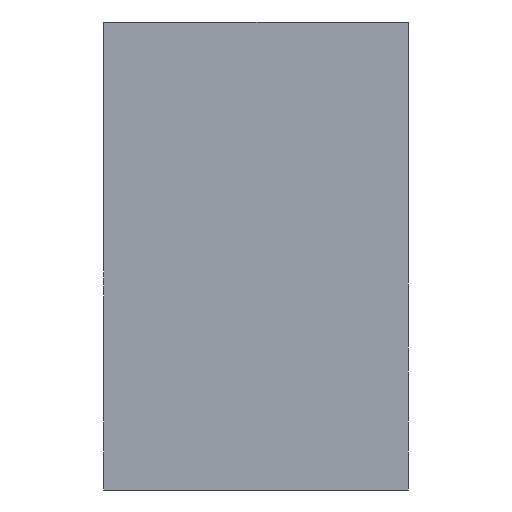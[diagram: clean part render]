
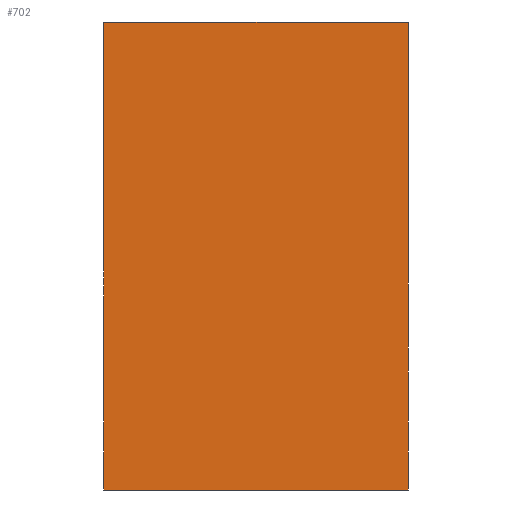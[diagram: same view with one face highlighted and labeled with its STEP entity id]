
A CAD part, left-side view. The second image highlights one B-rep face of the part: STEP entity #702.
In plain terms, the highlighted planar face has unit normal (-1, 0, 0).
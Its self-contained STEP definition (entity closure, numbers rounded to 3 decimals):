
#71 = LINE ( 'NONE', #2379, #654 ) ;
#193 = PLANE ( 'NONE',  #1316 ) ;
#195 = FACE_OUTER_BOUND ( 'NONE', #1236, .T. ) ;
#217 = DIRECTION ( 'NONE',  ( 0., -1., 0. ) ) ;
#234 = CARTESIAN_POINT ( 'NONE',  ( 0., 19.5, 0. ) ) ;
#238 = DIRECTION ( 'NONE',  ( 1., 0., 0. ) ) ;
#243 = DIRECTION ( 'NONE',  ( 0., 0., -1. ) ) ;
#282 = CARTESIAN_POINT ( 'NONE',  ( 0., 19.5, 0. ) ) ;
#330 = CARTESIAN_POINT ( 'NONE',  ( 0., 0., 0. ) ) ;
#335 = VECTOR ( 'NONE', #453, 1000. ) ;
#453 = DIRECTION ( 'NONE',  ( 0., -1., 0. ) ) ;
#624 = ORIENTED_EDGE ( 'NONE', *, *, #1777, .T. ) ;
#654 = VECTOR ( 'NONE', #872, 1000. ) ;
#702 = ADVANCED_FACE ( 'NONE', ( #195 ), #193, .F. ) ;
#723 = LINE ( 'NONE', #1375, #2013 ) ;
#821 = ORIENTED_EDGE ( 'NONE', *, *, #2236, .T. ) ;
#856 = VERTEX_POINT ( 'NONE', #330 ) ;
#872 = DIRECTION ( 'NONE',  ( 0., 0., 1. ) ) ;
#874 = LINE ( 'NONE', #1951, #335 ) ;
#1049 = CARTESIAN_POINT ( 'NONE',  ( 0., 0., -30. ) ) ;
#1121 = VERTEX_POINT ( 'NONE', #2045 ) ;
#1236 = EDGE_LOOP ( 'NONE', ( #821, #1727, #1807, #624 ) ) ;
#1316 = AXIS2_PLACEMENT_3D ( 'NONE', #234, #238, #243 ) ;
#1375 = CARTESIAN_POINT ( 'NONE',  ( 0., 19.5, -30. ) ) ;
#1544 = CARTESIAN_POINT ( 'NONE',  ( 0., 19.5, 0. ) ) ;
#1608 = DIRECTION ( 'NONE',  ( 0., 0., 1. ) ) ;
#1612 = VECTOR ( 'NONE', #1608, 1000. ) ;
#1727 = ORIENTED_EDGE ( 'NONE', *, *, #1983, .F. ) ;
#1777 = EDGE_CURVE ( 'NONE', #1121, #2389, #723, .T. ) ;
#1807 = ORIENTED_EDGE ( 'NONE', *, *, #2128, .F. ) ;
#1915 = LINE ( 'NONE', #282, #1612 ) ;
#1951 = CARTESIAN_POINT ( 'NONE',  ( 0., 19.5, 0. ) ) ;
#1983 = EDGE_CURVE ( 'NONE', #2250, #856, #874, .T. ) ;
#2013 = VECTOR ( 'NONE', #217, 1000. ) ;
#2045 = CARTESIAN_POINT ( 'NONE',  ( 0., 19.5, -30. ) ) ;
#2128 = EDGE_CURVE ( 'NONE', #1121, #2250, #1915, .T. ) ;
#2236 = EDGE_CURVE ( 'NONE', #2389, #856, #71, .T. ) ;
#2250 = VERTEX_POINT ( 'NONE', #1544 ) ;
#2379 = CARTESIAN_POINT ( 'NONE',  ( 0., 0., 0. ) ) ;
#2389 = VERTEX_POINT ( 'NONE', #1049 ) ;
